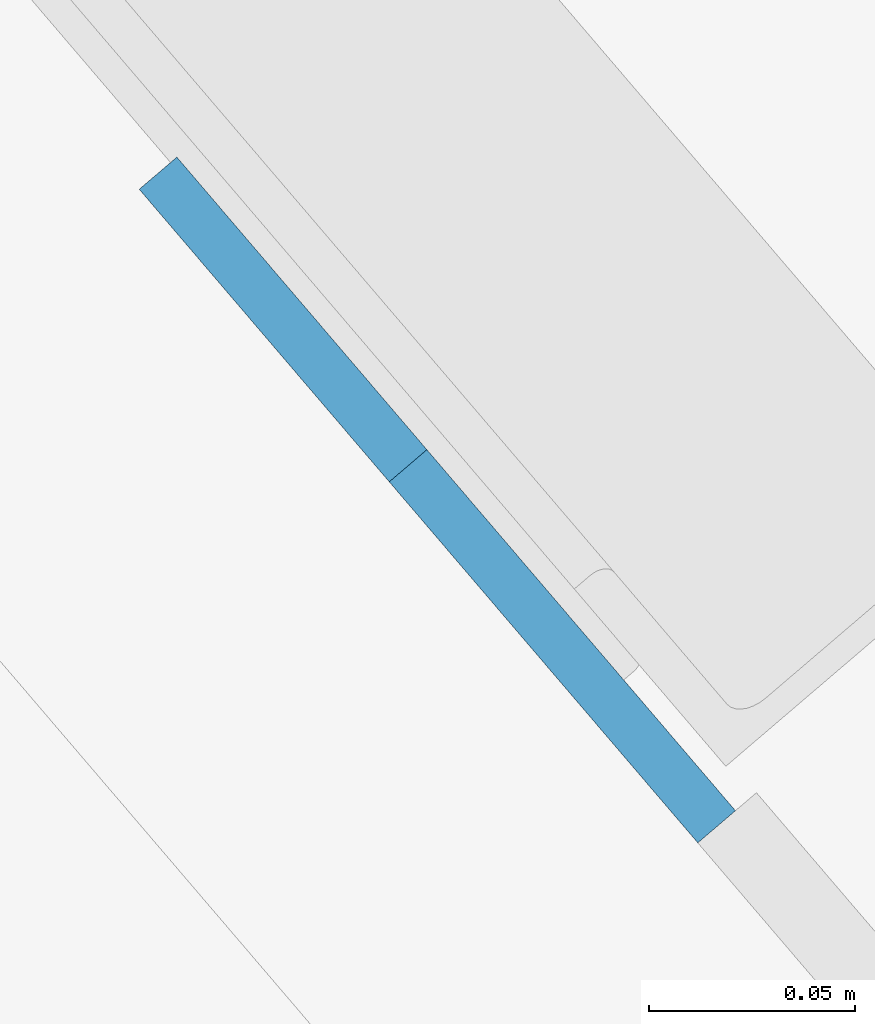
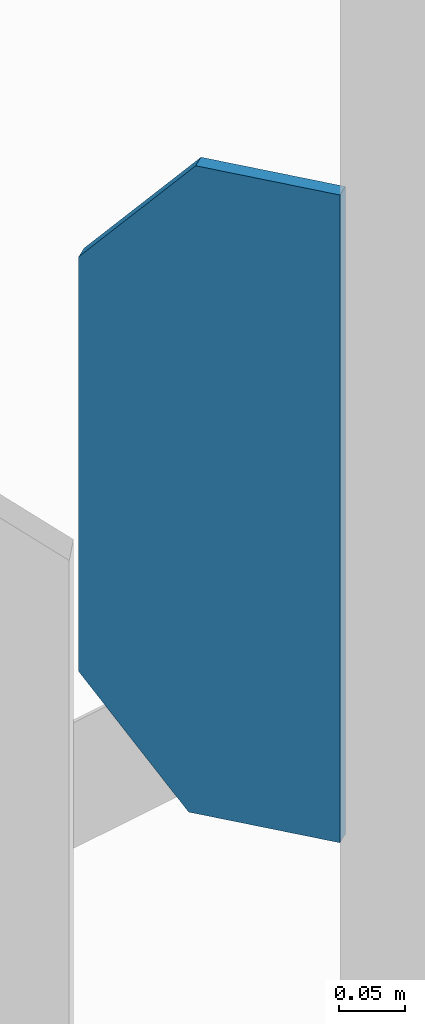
# One storey, part 38 of 41: 1 plate.
"""IFC2X3 building model written with IfcOpenShell, lengths in millimetres."""

from ifc_helpers import new_model, entity, si_unit, converted_unit, derived_unit, direction, frame, origin, origin_with_axes, place, context, project, spatial, polyline, outline, extrude, material, element, save


model = new_model("IFC2X3")

# Units and contexts
model_context = context("Model", 3, precision=0.01, world=origin(), true_north=direction((6.123031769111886e-17, 1.0)))
ifc_project = project(units=[si_unit("LENGTHUNIT", "METRE", prefix="MILLI"), si_unit("AREAUNIT", "SQUARE_METRE"), si_unit("VOLUMEUNIT", "CUBIC_METRE"), converted_unit("PLANEANGLEUNIT", "DEGREE", entity("IfcRatioMeasure", 0.017453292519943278), si_unit("PLANEANGLEUNIT", "RADIAN"), dimensions=[0, 0, 0, 0, 0, 0, 0]), si_unit("MASSUNIT", "GRAM", prefix="KILO"), derived_unit("MASSDENSITYUNIT", [(si_unit("MASSUNIT", "GRAM", prefix="KILO"), 1), (si_unit("LENGTHUNIT", "METRE"), -3)]), derived_unit("MOMENTOFINERTIAUNIT", [(si_unit("LENGTHUNIT", "METRE"), 4)]), si_unit("TIMEUNIT", "SECOND"), si_unit("FREQUENCYUNIT", "HERTZ"), si_unit("THERMODYNAMICTEMPERATUREUNIT", "DEGREE_CELSIUS"), derived_unit("THERMALTRANSMITTANCEUNIT", [(si_unit("MASSUNIT", "GRAM", prefix="KILO"), 1), (si_unit("THERMODYNAMICTEMPERATUREUNIT", "KELVIN"), -1), (si_unit("TIMEUNIT", "SECOND"), -3)]), derived_unit("VOLUMETRICFLOWRATEUNIT", [(si_unit("LENGTHUNIT", "METRE"), 3), (si_unit("TIMEUNIT", "SECOND"), -1)]), derived_unit("MASSFLOWRATEUNIT", [(si_unit("MASSUNIT", "GRAM", prefix="KILO"), 1), (si_unit("TIMEUNIT", "SECOND"), -1)]), derived_unit("ROTATIONALFREQUENCYUNIT", [(si_unit("TIMEUNIT", "SECOND"), -1)]), si_unit("ELECTRICCURRENTUNIT", "AMPERE"), si_unit("ELECTRICVOLTAGEUNIT", "VOLT"), si_unit("POWERUNIT", "WATT"), si_unit("FORCEUNIT", "NEWTON", prefix="KILO"), si_unit("ILLUMINANCEUNIT", "LUX"), si_unit("LUMINOUSFLUXUNIT", "LUMEN"), si_unit("LUMINOUSINTENSITYUNIT", "CANDELA"), derived_unit("USERDEFINED", [(si_unit("MASSUNIT", "GRAM", prefix="KILO"), -1), (si_unit("LENGTHUNIT", "METRE"), -2), (si_unit("TIMEUNIT", "SECOND"), 3), (si_unit("LUMINOUSFLUXUNIT", "LUMEN"), 1)]), derived_unit("SOUNDPOWERUNIT", [(si_unit("MASSUNIT", "GRAM", prefix="KILO"), 1), (si_unit("LENGTHUNIT", "METRE"), 2), (si_unit("TIMEUNIT", "SECOND"), -3)]), derived_unit("LINEARVELOCITYUNIT", [(si_unit("LENGTHUNIT", "METRE"), 1), (si_unit("TIMEUNIT", "SECOND"), -1)]), si_unit("PRESSUREUNIT", "PASCAL"), derived_unit("USERDEFINED", [(si_unit("LENGTHUNIT", "METRE"), -2), (si_unit("MASSUNIT", "GRAM", prefix="KILO"), 1), (si_unit("TIMEUNIT", "SECOND"), -2)]), derived_unit("LINEARFORCEUNIT", [(si_unit("MASSUNIT", "GRAM", prefix="KILO"), 1), (si_unit("LENGTHUNIT", "METRE"), 1), (si_unit("TIMEUNIT", "SECOND"), -2), (si_unit("LENGTHUNIT", "METRE"), -1)]), derived_unit("PLANARFORCEUNIT", [(si_unit("MASSUNIT", "GRAM", prefix="KILO"), 1), (si_unit("LENGTHUNIT", "METRE"), 1), (si_unit("TIMEUNIT", "SECOND"), -2), (si_unit("LENGTHUNIT", "METRE"), -2)])], contexts=[model_context])

# Site, building, storey
site_placement = place(None, frame((962.4174930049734, -6014.433753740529, 0.0), z_axis=(0.0, 0.0, 1.0), x_axis=(0.7601792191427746, 0.649713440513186, 0.0)))
site = spatial("IfcSite", under=ifc_project, at=site_placement, Name="Default", CompositionType="ELEMENT")
building_placement = place(site_placement, origin())
building = spatial("IfcBuilding", under=site, at=building_placement, CompositionType="ELEMENT")
storey_placement = place(building_placement, origin())
storey = spatial("IfcBuildingStorey", under=building, at=storey_placement, Name="Datum", CompositionType="ELEMENT", Elevation=0.0)

# Plate
ifc_material = material(Name="Metal-Steel-Galvanised")
plate_placement = place(storey_placement, frame((154413.960204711, -18217.315582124, 6082.520400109), z_axis=(1.0, 0.0, 0.0), x_axis=(0.0, 1.0, 0.0)))
element("IfcPlate", 1, at=plate_placement, inside=storey, material=ifc_material, Name="-", ObjectType="None", context=model_context, shape_type="SweptSolid", body=[
    extrude(outline(polyline([(1e-09, -598.453510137), (120.732086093, -598.453510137), (208.503154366, -489.799564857), (208.503154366, -108.803230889), (115.173358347, -3.453510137), (1e-09, -3.453510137), (1e-09, -598.453510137)])), origin_with_axes(), (0.0, 0.0, 1.0), 12.0),
])

save(model, "model.ifc")
